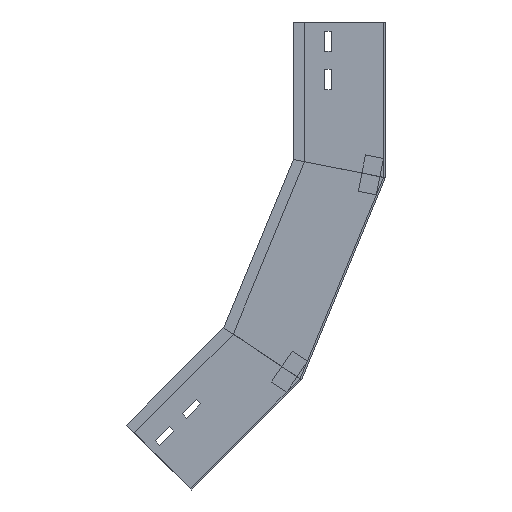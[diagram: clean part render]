
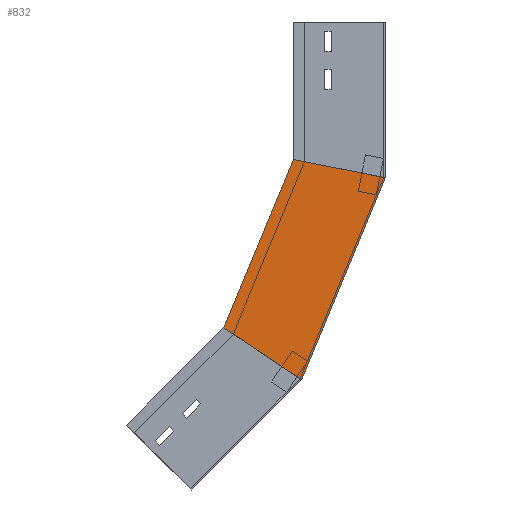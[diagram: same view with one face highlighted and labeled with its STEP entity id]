
A CAD part, left-side view. The second image highlights one B-rep face of the part: STEP entity #832.
In plain terms, the highlighted planar face has unit normal (-1, 0, 0) as drawn and (1, 0, 0) by its records, which use the part's own axes.
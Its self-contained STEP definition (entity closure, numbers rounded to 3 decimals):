
#8 = FACE_OUTER_BOUND ( 'NONE', #763, .T. ) ;
#47 = CARTESIAN_POINT ( 'NONE',  ( 0., 0., -169.6 ) ) ;
#77 = DIRECTION ( 'NONE',  ( 0., -0.981, -0.195 ) ) ;
#83 = VECTOR ( 'NONE', #1489, 1000. ) ;
#87 = DIRECTION ( 'NONE',  ( 0., 0.383, -0.924 ) ) ;
#94 = VERTEX_POINT ( 'NONE', #1216 ) ;
#136 = CARTESIAN_POINT ( 'NONE',  ( 0., 0., -169.6 ) ) ;
#198 = EDGE_CURVE ( 'NONE', #1049, #626, #534, .T. ) ;
#319 = CARTESIAN_POINT ( 'NONE',  ( 0., 92.388, -131.332 ) ) ;
#412 = LINE ( 'NONE', #319, #682 ) ;
#468 = DIRECTION ( 'NONE',  ( -1., 0., 0. ) ) ;
#534 = LINE ( 'NONE', #1116, #801 ) ;
#626 = VERTEX_POINT ( 'NONE', #47 ) ;
#682 = VECTOR ( 'NONE', #87, 1000. ) ;
#735 = PLANE ( 'NONE',  #1382 ) ;
#736 = LINE ( 'NONE', #856, #1414 ) ;
#763 = EDGE_LOOP ( 'NONE', ( #1244, #1014, #795, #1026 ) ) ;
#793 = LINE ( 'NONE', #1031, #83 ) ;
#795 = ORIENTED_EDGE ( 'NONE', *, *, #876, .T. ) ;
#801 = VECTOR ( 'NONE', #77, 1000. ) ;
#832 = ADVANCED_FACE ( 'NONE', ( #8 ), #735, .F. ) ;
#856 = CARTESIAN_POINT ( 'NONE',  ( 0., 129.74, -363.769 ) ) ;
#876 = EDGE_CURVE ( 'NONE', #626, #1009, #793, .T. ) ;
#935 = DIRECTION ( 'NONE',  ( 0., 0., 1. ) ) ;
#1009 = VERTEX_POINT ( 'NONE', #1337 ) ;
#1014 = ORIENTED_EDGE ( 'NONE', *, *, #198, .T. ) ;
#1026 = ORIENTED_EDGE ( 'NONE', *, *, #1243, .F. ) ;
#1031 = CARTESIAN_POINT ( 'NONE',  ( 0., 0., -169.6 ) ) ;
#1049 = VERTEX_POINT ( 'NONE', #1232 ) ;
#1116 = CARTESIAN_POINT ( 'NONE',  ( 0., 32.452, -163.145 ) ) ;
#1193 = DIRECTION ( 'NONE',  ( 0., -0.831, -0.556 ) ) ;
#1216 = CARTESIAN_POINT ( 'NONE',  ( 0., 175.893, -332.93 ) ) ;
#1232 = CARTESIAN_POINT ( 'NONE',  ( 0., 100., -149.709 ) ) ;
#1243 = EDGE_CURVE ( 'NONE', #94, #1009, #736, .T. ) ;
#1244 = ORIENTED_EDGE ( 'NONE', *, *, #1448, .F. ) ;
#1337 = CARTESIAN_POINT ( 'NONE',  ( 0., 91.117, -389.576 ) ) ;
#1382 = AXIS2_PLACEMENT_3D ( 'NONE', #136, #468, #935 ) ;
#1414 = VECTOR ( 'NONE', #1193, 1000. ) ;
#1448 = EDGE_CURVE ( 'NONE', #1049, #94, #412, .T. ) ;
#1489 = DIRECTION ( 'NONE',  ( 0., 0.383, -0.924 ) ) ;
